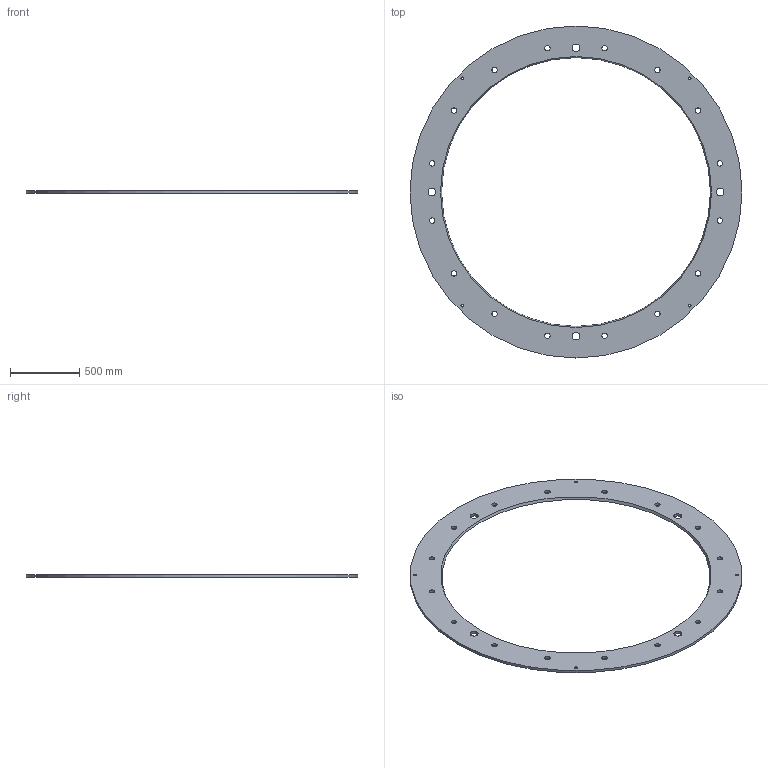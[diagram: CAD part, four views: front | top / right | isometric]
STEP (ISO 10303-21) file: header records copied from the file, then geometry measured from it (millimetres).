
FILE_DESCRIPTION (( 'STEP AP214' ), '1' );
FILE_NAME ('Discharge Pipe #2 Lower Flange.STEP', '2025-01-09T19:43:28', ( '' ), ( '' ), 'SwSTEP 2.0', 'SolidWorks 2024', '' );
FILE_SCHEMA (( 'AUTOMOTIVE_DESIGN' ));
Length unit declared in the file: inch
Products named in the file (1): Discharge Pipe #2 Lower Flange
Bounding box: 2400.3 x 2400.3 x 19.05 mm (x, y, z)
Volume: 28673414.2 mm3; surface area: 3335891.3 mm2
Topology: 1 solids, 1 shells, 28 faces, 78 edges, 52 vertices
Faces by surface type: cylinder 25, plane 2, cone 1
Full cylindrical faces by diameter (mm): 20.638 x4, 38.608 x16, 57.15 x4, 2400.3 x1
Entity records: 931 total; most frequent: DIRECTION 162, CARTESIAN_POINT 133, EDGE_LOOP 104, ORIENTED_EDGE 104, AXIS2_PLACEMENT_3D 81, FACE_OUTER_BOUND 53, EDGE_CURVE 52, CIRCLE 52
